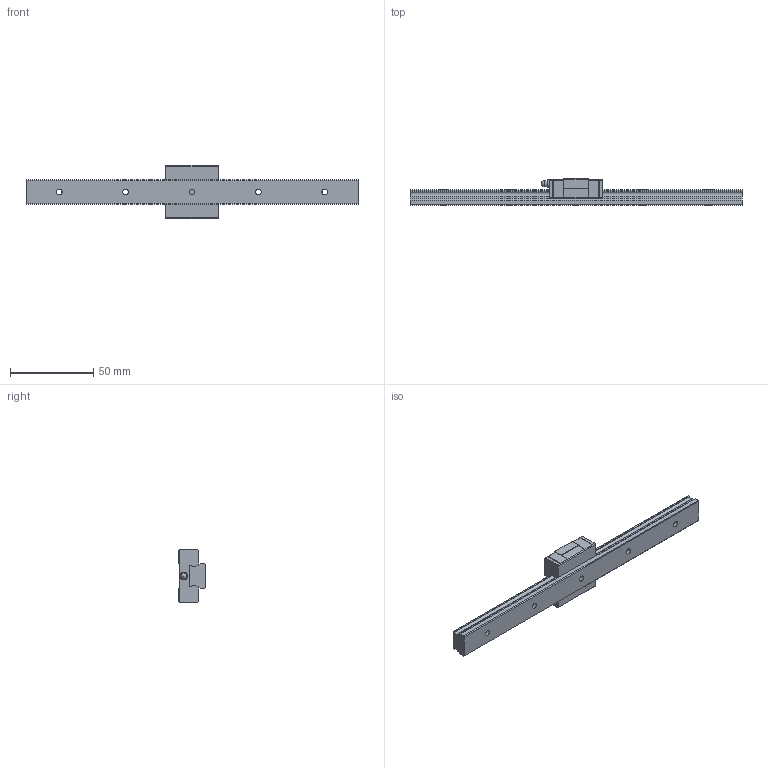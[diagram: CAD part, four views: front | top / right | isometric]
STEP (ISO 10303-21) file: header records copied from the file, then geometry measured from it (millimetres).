
FILE_DESCRIPTION(/* description */ ('STEP AP203'),/* implementation_level */ '2;1');
FILE_NAME(/* name */ 'RSX15SMUU-200LM_G20_0_PB107_84-05_0_0_0_1',/* time_stamp */ '2024-05-21T10:25:44+02:00',/* author */ ('License CC BY-ND 4.0'),/* organization */ ('CADENAS'),/* preprocessor_version */ 'ST-DEVELOPER v19.3',/* originating_system */ 'PARTsolutions',/* authorisation */ ' ');
FILE_SCHEMA (('CONFIG_CONTROL_DESIGN'));
Length unit declared in the file: millimetre
Products named in the file (4): RSX15SMUU-200LM_G20_0_PB107_84-05_0_0_0_1; RSX15M20020 Track; RSX15SMUU1 Slider; RSX PB107 grease nipple
Assembly tree (3 placements, depth 2):
  RSX15SMUU-200LM_G20_0_PB107_84-05_0_0_0_1
    RSX15M20020 Track
    RSX15SMUU1 Slider
    RSX PB107 grease nipple
Bounding box: 200 x 16 x 32 mm (x, y, z)
Volume: 33659.5 mm3; surface area: 14512.7 mm2
Topology: 3 solids, 3 shells, 136 faces, 360 edges, 238 vertices
Faces by surface type: plane 96, cylinder 35, cone 4, sphere 1
Full cylindrical faces by diameter (mm): 2.459 x2, 3 x3, 3.5 x6, 4.5 x1, 6 x5
Entity records: 4153 total; most frequent: CARTESIAN_POINT 706, DIRECTION 684, ORIENTED_EDGE 664, EDGE_CURVE 332, LINE 260, VECTOR 260, VERTEX_POINT 234, AXIS2_PLACEMENT_3D 212
